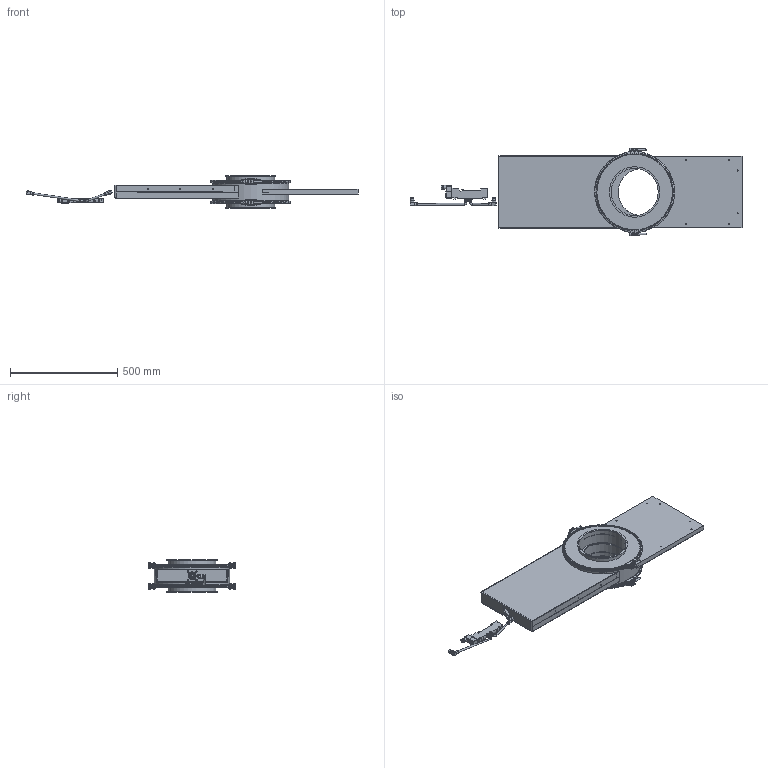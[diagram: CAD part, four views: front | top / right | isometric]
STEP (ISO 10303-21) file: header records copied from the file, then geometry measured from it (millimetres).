
FILE_DESCRIPTION((''),'2;1');
FILE_NAME('U:\Wolfgang\Marcel-3D\fertig\Kapitel 9\2221093.stp','2011-10-11T13:06:23',('iwienholt'),(''),'Autodesk Inventor 2010','Autodesk Inventor 2010','');
FILE_SCHEMA(('AUTOMOTIVE_DESIGN { 1 0 10303 214 1 1 1 1 }'));
Length unit declared in the file: millimetre
Products named in the file (23): 2221093; Einheit DN220; 3522055; 3522055-1; Verschluss b=374; Verschlussrolle; VerschlussrolleGewinde; ISO 4762 M8 x 70; 3522055-Dichtmasse; P.Schibereinheit DN220; 532759_DNCB_50_320_PPV_A_6_0; 537600_VUVB_S_B42_ZD_Q8_3AC1_6_0; 537600_VUVB_S_B42_ZD_Q8_3AC1_6_01; 537600_VUVB_S_B42_ZD_Q8_3AC1_6_02; 537600_VUVB_S_B42_ZD_Q8_3AC1_6_03; 4527_MSFG_24_42_50_60_6_0; 4527_MSFG_24_42_50_60_6_01; 4527_MSFG_24_42_50_60_6_02; 153414_QSRL_1_4_8_6_0; schlauch4; schlauch; 13570_CRSG_M12x125_6_0; P.Schieber DN220
Assembly tree (30 placements, depth 4):
  2221093
    Einheit DN220
    3522055  x2
      3522055-1
      Verschluss b=374
      Verschlussrolle
      VerschlussrolleGewinde
      ISO 4762 M8 x 70
      3522055-Dichtmasse
    P.Schibereinheit DN220
      537600_VUVB_S_B42_ZD_Q8_3AC1_6_0
        537600_VUVB_S_B42_ZD_Q8_3AC1_6_01
        537600_VUVB_S_B42_ZD_Q8_3AC1_6_02
        537600_VUVB_S_B42_ZD_Q8_3AC1_6_03
      4527_MSFG_24_42_50_60_6_0
        4527_MSFG_24_42_50_60_6_01
        4527_MSFG_24_42_50_60_6_02
      153414_QSRL_1_4_8_6_0  x2
      schlauch4
      schlauch
      13570_CRSG_M12x125_6_0
      P.Schieber DN220
  532759_DNCB_50_320_PPV_A_6_0
Bounding box: 1546.74 x 408 x 150 mm (x, y, z)
Volume: 5829039.6 mm3; surface area: 2511297.6 mm2
Topology: 38 solids, 38 shells, 1421 faces, 3602 edges, 2354 vertices
Faces by surface type: plane 542, cylinder 435, cone 204, bspline 198, torus 42
Full cylindrical faces by diameter (mm): 1 x3, 2.459 x1, 3 x2, 3.5 x1, 4 x1, 4.5 x1, 5 x21, 5.471 x2, 5.5 x1, 6 x13, 7.188 x1, 8 x29, 8.05 x1, 9 x1, 9.6 x2, 10.15 x2, 11.2 x2, 12 x11, 13 x4, 13.05 x2, 14 x6, 14.4 x4, 14.5 x2, 14.7 x6, 15.1 x2, 15.2 x1, 15.5 x1, 15.7 x1, 16 x1, 17 x2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
Entity records: 21702 total; most frequent: CARTESIAN_POINT 5481, DIRECTION 3328, ORIENTED_EDGE 2914, EDGE_CURVE 1457, AXIS2_PLACEMENT_3D 1295, VERTEX_POINT 1036, EDGE_LOOP 993, VECTOR 738
